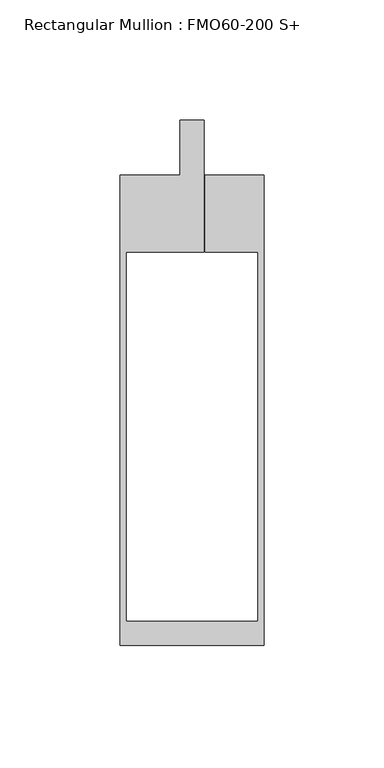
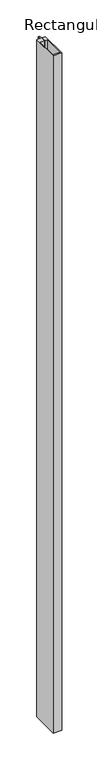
"""IFC4 building model written with IfcOpenShell, lengths in millimetres: member geometry, Rectangular Mullion : FMO60-200 S+."""

from ifc_helpers import new_model, si_unit, origin, place, context, project, spatial, faceted_brep, source, transform, mapped, element, save


def rectangular_mullion_fmo60_200_s_0897aa4b(model_context):
    return source(origin(), model_context, "Body", "Brep", [
        faceted_brep([(-5.0054742, 0.1998423, 0.0), (-30.001735, 0.1998423, 0.0), (-30.001735, -195.8046355, 0.0), (29.9945258, -195.8046355, 0.0), (29.9945258, 0.1998423, 0.0), (5.4942482, 0.1998423, 0.0), (5.4942482, -31.8001577, 0.0), (27.4945258, -31.8001577, 0.0), (27.4945258, -185.8046355, 0.0), (-27.5054742, -185.8046355, 0.0), (-27.5054742, -31.8001577, 0.0), (4.9942482, -31.8001577, 0.0), (4.9942482, 23.1913385, 0.0), (-5.0054742, 23.1913289, 0.0), (-5.0054742, 0.1998423, -5000.0), (-5.0054742, 23.1913289, -5000.0), (4.9942482, 23.1913289, -5000.0), (4.9942482, -31.8001577, -5000.0), (-27.5054742, -31.8001577, -5000.0), (-27.5054742, -185.8046355, -5000.0), (27.4945258, -185.8046355, -5000.0), (27.4945258, -31.8001577, -5000.0), (5.4942482, -31.8001577, -5000.0), (5.4942482, 0.1998423, -5000.0), (29.9945258, 0.1998423, -5000.0), (29.9945258, -195.8046355, -5000.0), (-30.001735, -195.8046355, -5000.0), (-30.001735, 0.1998423, -5000.0)], [[[0, 1, 2, 3, 4, 5, 6, 7, 8, 9, 10, 11, 12, 13]], [[14, 15, 16, 17, 18, 19, 20, 21, 22, 23, 24, 25, 26, 27]], [[0, 13, 15, 14]], [[1, 0, 14, 27]], [[2, 1, 27, 26]], [[3, 2, 26, 25]], [[4, 3, 25, 24]], [[5, 4, 24, 23]], [[6, 5, 23, 22]], [[7, 6, 22, 21]], [[8, 7, 21, 20]], [[9, 8, 20, 19]], [[10, 9, 19, 18]], [[11, 10, 18, 17]], [[12, 11, 17, 16]], [[13, 12, 16, 15]]]),
    ])


if __name__ == "__main__":
    model = new_model("IFC4")
    model_context = context("Model", 3, world=origin())
    ifc_project = project(units=[si_unit("LENGTHUNIT", "METRE", prefix="MILLI")], contexts=[model_context])
    site = spatial("IfcSite", under=ifc_project)
    building = spatial("IfcBuilding", under=site)
    placement = place(None, origin())
    rectangular_mullion_fmo60_200_s_shape = rectangular_mullion_fmo60_200_s_0897aa4b(model_context)
    element("IfcMember", 1, ObjectType="Rectangular Mullion : FMO60-200 S+", at=placement, inside=building, context=model_context, shape_type="MappedRepresentation", body=[
        mapped(rectangular_mullion_fmo60_200_s_shape, transform((0.0, 0.0, 0.0), x_axis=(1.0, 0.0, 0.0), y_axis=(0.0, 1.0, 0.0), z_axis=(0.0, 0.0, 1.0))),
    ])
    save(model, "model.ifc")
